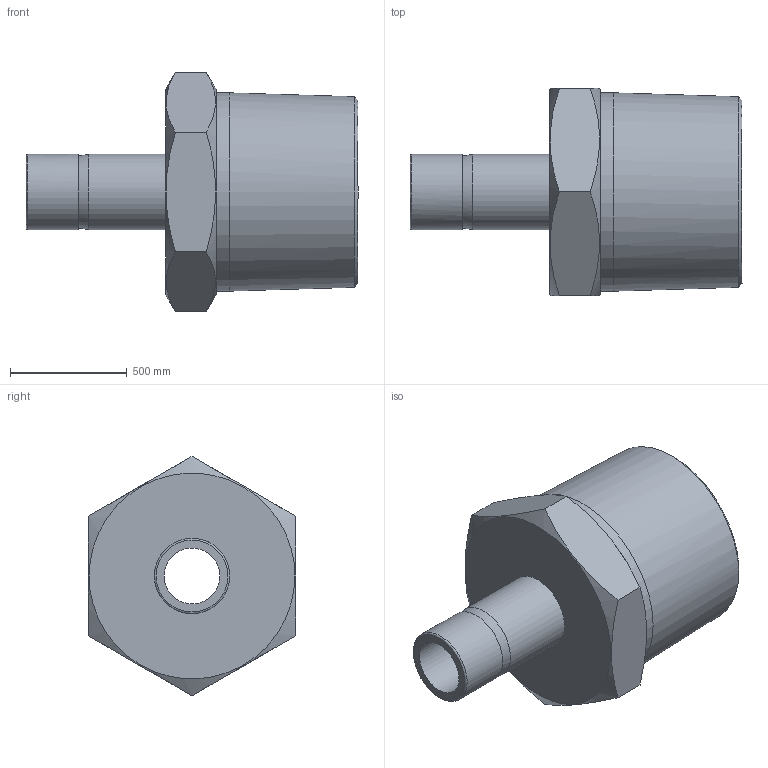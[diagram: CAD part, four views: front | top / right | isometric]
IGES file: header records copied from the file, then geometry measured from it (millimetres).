
Global section: file name: SMA-8-16N; native system: Autodesk Inventor 2016; preprocessor: unknown; author: DESIGNPC2; date: 20151221.103518; units: millimetre
Bounding box: 1419.86 x 886.46 x 1023.6 mm (x, y, z)
Volume: 460569747.8 mm3; surface area: 5050579.6 mm2
Topology: 1 solids, 1 shells, 22 faces, 62 edges, 45 vertices
Faces by surface type: bspline 22
